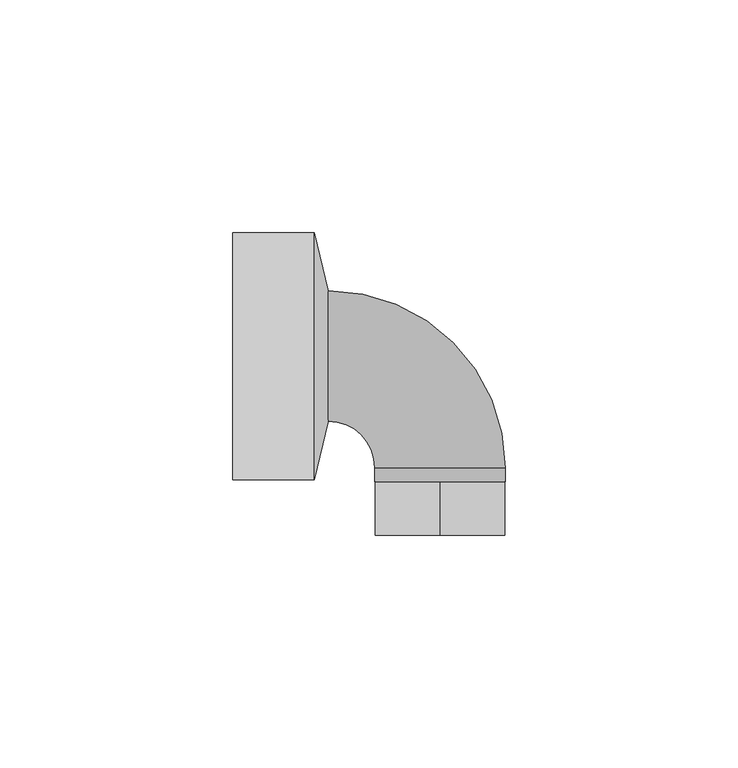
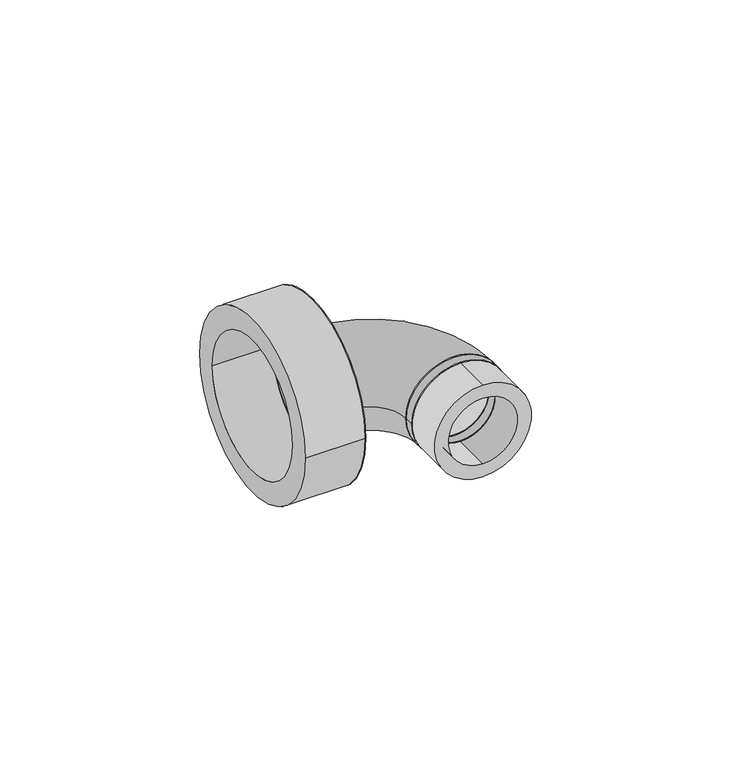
"""IFC4 building model written with IfcOpenShell, lengths in millimetres: pipe fitting geometry, 40_Угольник переходной 90 : Белый цвет."""

import ifcopenshell
import ifcopenshell.guid

model = None  # the IFC model being written
_history = None  # IfcOwnerHistory: only IFC2X3 demands one
_inside = {}  # id of a spatial element -> (the spatial element, [elements in it])
_under = {}  # id of a project, library or spatial element -> (it, [spatial elements below it])
_declared = {}  # id of a project -> (the project, [libraries it declares])
_typed = {}  # id of a type object -> (the type object, [elements of that type])
_made_of = {}  # id of a material, layer set ... -> (it, [elements and type objects made of it])


def new_model(schema):
    """Start an empty IFC model of exactly this schema.

    Asked for "IFC4X3", IfcOpenShell would pick the latest addendum, in which some entities
    have other attributes; the version numbers below select the first issue.
    IFC2X3 requires an IfcOwnerHistory on every rooted entity: one is made here for all.
    """
    global model, _history
    if schema == "IFC4X3":
        model = ifcopenshell.file(schema_version=(4, 3, 0, 0))
    else:
        model = ifcopenshell.file(schema=schema)
    _inside.clear()
    _under.clear()
    _declared.clear()
    _typed.clear()
    _made_of.clear()
    _history = None
    if model.schema == "IFC2X3":
        org = make("IfcOrganization", Name="unknown")
        user = make(
            "IfcPersonAndOrganization",
            ThePerson=make("IfcPerson", FamilyName="unknown"),
            TheOrganization=org,
        )
        app = make(
            "IfcApplication",
            ApplicationDeveloper=org,
            Version="unknown",
            ApplicationFullName="unknown",
            ApplicationIdentifier="unknown",
        )
        _history = make(
            "IfcOwnerHistory",
            OwningUser=user,
            OwningApplication=app,
            ChangeAction="ADDED",
            CreationDate=0,
        )
    return model


def make(cls, **values):
    """One entity of the class cls with the attributes given. An attribute that is None is left unset."""
    return model.create_entity(
        cls, **{name: value for name, value in values.items() if value is not None}
    )


def rooted(cls, **values):
    """An entity with a GlobalId (a new one), such as an element, a storey or a relation."""
    return make(cls, GlobalId=ifcopenshell.guid.new(), OwnerHistory=_history, **values)


def si_unit(unit_type, name, prefix=None):
    """IfcSIUnit, for example si_unit("LENGTHUNIT", "METRE", prefix="MILLI")."""
    return make("IfcSIUnit", UnitType=unit_type, Prefix=prefix, Name=name)


def assignment(units):
    """IfcUnitAssignment: the units of a project."""
    return None if units is None else make("IfcUnitAssignment", Units=units)


def point(xyz):
    """IfcCartesianPoint."""
    return None if xyz is None else make("IfcCartesianPoint", Coordinates=xyz)


def direction(xyz):
    """IfcDirection."""
    return None if xyz is None else make("IfcDirection", DirectionRatios=xyz)


def frame(location, z_axis=None, x_axis=None):
    """IfcAxis2Placement3D, a coordinate frame: its origin and axes. An axis left out is left unset."""
    return make(
        "IfcAxis2Placement3D",
        Location=point(location),
        Axis=direction(z_axis),
        RefDirection=direction(x_axis),
    )


def frame_2d(location, x_axis=None):
    """IfcAxis2Placement2D, a coordinate frame in the plane: its origin and x axis."""
    return make(
        "IfcAxis2Placement2D", Location=point(location), RefDirection=direction(x_axis)
    )


def origin():
    """The frame at (0, 0, 0) with its axes left unset."""
    return frame((0.0, 0.0, 0.0))


def place(relative_to, where):
    """IfcLocalPlacement: puts the frame where relative to a parent placement (None: the world)."""
    return make(
        "IfcLocalPlacement", PlacementRelTo=relative_to, RelativePlacement=where
    )


def context(
    kind, dimensions, precision=None, world=None, true_north=None, identifier=None
):
    """IfcGeometricRepresentationContext, for example the 3D "Model" context."""
    return make(
        "IfcGeometricRepresentationContext",
        ContextIdentifier=identifier,
        ContextType=kind,
        CoordinateSpaceDimension=dimensions,
        Precision=precision,
        WorldCoordinateSystem=world,
        TrueNorth=true_north,
    )


def project(units=None, contexts=None):
    """IfcProject with its units and contexts."""
    return rooted(
        "IfcProject",
        Name="project",
        RepresentationContexts=contexts,
        UnitsInContext=assignment(units),
    )


def spatial(cls, under=None, at=None, **own):
    """A site, building, storey or space (cls), placed at a placement, below another one or the project."""
    s = rooted(cls, ObjectPlacement=at, **own)
    if under is not None:
        _under.setdefault(under.id(), (under, []))[1].append(s)
    return s


def polyline(points):
    """IfcPolyline through the points."""
    return make("IfcPolyline", Points=[point(p) for p in points])


def circle_curve(where, radius):
    """IfcCircle in the frame where."""
    return make("IfcCircle", Position=where, Radius=radius)


def ellipse_curve(where, semi_axis1, semi_axis2):
    """IfcEllipse in the frame where."""
    return make(
        "IfcEllipse", Position=where, SemiAxis1=semi_axis1, SemiAxis2=semi_axis2
    )


def trimmed(basis, trim1, trim2, sense, master):
    """IfcTrimmedCurve: the piece of a basis curve between two trims."""
    return make(
        "IfcTrimmedCurve",
        BasisCurve=basis,
        Trim1=trim1,
        Trim2=trim2,
        SenseAgreement=sense,
        MasterRepresentation=master,
    )


def segment(curve, same_sense, transition):
    """IfcCompositeCurveSegment."""
    return make(
        "IfcCompositeCurveSegment",
        Transition=transition,
        SameSense=same_sense,
        ParentCurve=curve,
    )


def composite_curve(segments, self_intersect=None):
    """IfcCompositeCurve: segments joined end to end."""
    return make("IfcCompositeCurve", Segments=segments, SelfIntersect=self_intersect)


def outline(outer, holes=None, kind="AREA"):
    """IfcArbitraryClosedProfileDef: a profile drawn as a closed curve; with holes, ...WithVoids."""
    if holes is None:
        return make("IfcArbitraryClosedProfileDef", ProfileType=kind, OuterCurve=outer)
    return make(
        "IfcArbitraryProfileDefWithVoids",
        ProfileType=kind,
        OuterCurve=outer,
        InnerCurves=holes,
    )


def extrude(swept, where, along, depth):
    """IfcExtrudedAreaSolid: the profile swept, set in the frame where, extruded along a direction by depth."""
    return make(
        "IfcExtrudedAreaSolid",
        SweptArea=swept,
        Position=where,
        ExtrudedDirection=direction(along),
        Depth=depth,
    )


def shape(context_of_items, identifier, shape_type, items):
    """IfcShapeRepresentation: the items that make up one representation, for example the "Body"."""
    return make(
        "IfcShapeRepresentation",
        ContextOfItems=context_of_items,
        RepresentationIdentifier=identifier,
        RepresentationType=shape_type,
        Items=items,
    )


def source(mapping_origin, context_of_items, identifier, shape_type, items):
    """IfcRepresentationMap: a shape defined once, which mapped items show again and again."""
    return make(
        "IfcRepresentationMap",
        MappingOrigin=mapping_origin,
        MappedRepresentation=shape(context_of_items, identifier, shape_type, items),
    )


def transform(
    local_origin,
    x_axis=None,
    y_axis=None,
    z_axis=None,
    scale=None,
    scale2=None,
    scale3=None,
    uniform=True,
):
    """IfcCartesianTransformationOperator3D, or its non-uniform kind. x_axis, y_axis, z_axis: its Axis1, 2, 3."""
    if uniform:
        return make(
            "IfcCartesianTransformationOperator3D",
            Axis1=direction(x_axis),
            Axis2=direction(y_axis),
            LocalOrigin=point(local_origin),
            Scale=scale,
            Axis3=direction(z_axis),
        )
    return make(
        "IfcCartesianTransformationOperator3DnonUniform",
        Axis1=direction(x_axis),
        Axis2=direction(y_axis),
        LocalOrigin=point(local_origin),
        Scale=scale,
        Axis3=direction(z_axis),
        Scale2=scale2,
        Scale3=scale3,
    )


def mapped(mapping_source, mapping_target):
    """IfcMappedItem: shows the shape of a source again, moved by a transform."""
    return make(
        "IfcMappedItem", MappingSource=mapping_source, MappingTarget=mapping_target
    )


def made_of(thing, what):
    """Note that an element or type object is made of a material, layer set ...; save() writes the relation."""
    if what is not None:
        _made_of.setdefault(what.id(), (what, []))[1].append(thing)
    return thing


def element(
    cls,
    number,
    at=None,
    inside=None,
    cuts=None,
    type_object=None,
    material=None,
    context=None,
    identifier="Body",
    shape_type=None,
    held_by="IfcProductDefinitionShape",
    body=None,
    shapes=None,
    **own,
):
    """One element of the class cls, such as IfcWall. Its Tag is "e" and its number.

    at: its placement. inside: the storey or other place that contains it. cuts: it is an
    opening in that element (IfcRelVoidsElement). A single representation is given by context,
    identifier, shape_type and body (its items); several are given by shapes. held_by: the class
    of the entity that holds the representations. save() writes the other relations.
    """
    e = rooted(cls, Tag="e%d" % number, ObjectPlacement=at, **own)
    if body is not None:
        shapes = [shape(context, identifier, shape_type, body)]
    if shapes is not None:
        e.Representation = make(held_by, Representations=shapes)
    if inside is not None:
        _inside.setdefault(inside.id(), (inside, []))[1].append(e)
    if cuts is not None:
        rooted(
            "IfcRelVoidsElement", RelatingBuildingElement=cuts, RelatedOpeningElement=e
        )
    if type_object is not None:
        _typed.setdefault(type_object.id(), (type_object, []))[1].append(e)
    return made_of(e, material)


def aggregate(whole, parts):
    """IfcRelAggregates: a whole, such as a stair, and the parts it consists of."""
    return rooted("IfcRelAggregates", RelatingObject=whole, RelatedObjects=parts)


def save(model, path):
    """Write the relations noted so far, then the file.

    IfcRelAggregates (storeys below a building ...), IfcRelContainedInSpatialStructure (elements
    in a storey), IfcRelDefinesByType, IfcRelAssociatesMaterial and IfcRelDeclares: one each for
    every whole, place, type object, material and project.
    """
    for whole, parts in _under.values():
        aggregate(whole, parts)
    for where, things in _inside.values():
        rooted(
            "IfcRelContainedInSpatialStructure",
            RelatedElements=things,
            RelatingStructure=where,
        )
    for kind, things in _typed.values():
        rooted("IfcRelDefinesByType", RelatedObjects=things, RelatingType=kind)
    for what, things in _made_of.values():
        rooted("IfcRelAssociatesMaterial", RelatedObjects=things, RelatingMaterial=what)
    for by, libraries in _declared.values():
        rooted("IfcRelDeclares", RelatingContext=by, RelatedDefinitions=libraries)
    model.write(path)


def plane_surface(at):
    """IfcPlane: the flat surface through the origin of the frame at, square to its z axis."""
    return make("IfcPlane", Position=at)


def revolved_surface(curve, axis_point, axis_direction):
    """IfcSurfaceOfRevolution: the curve turned about the line through axis_point along axis_direction."""
    return make(
        "IfcSurfaceOfRevolution",
        SweptCurve=make("IfcArbitraryOpenProfileDef", ProfileType="CURVE", Curve=curve),
        AxisPosition=make("IfcAxis1Placement", Location=point(axis_point), Axis=direction(axis_direction)),
    )


def advanced_brep(points, edges, surfaces, faces):
    """IfcAdvancedBrep: a solid bounded by faces that lie on surfaces and meet in shared edges.

    An edge is (start, end): straight between two places in points (the first is 0);
    or (start, end, curve); or (start, end, curve, False) where it runs against its curve.
    A face is (place in surfaces, loops), or (place, loops, False) where it looks against
    its surface's normal. A loop lists edges by number (the first is 1), with a minus sign
    where the edge is run from its end to its start. The first loop is the outer one.
    """
    corners = [point(p) for p in points]
    vertices = [make("IfcVertexPoint", VertexGeometry=c) for c in corners]
    made = []
    for start, end, *more in edges:
        made.append(
            make(
                "IfcEdgeCurve",
                EdgeStart=vertices[start],
                EdgeEnd=vertices[end],
                EdgeGeometry=more[0] if more else make("IfcPolyline", Points=[corners[start], corners[end]]),
                SameSense=more[1] if len(more) > 1 else True,
            )
        )
    hull = []
    for where, loops, *sense in faces:
        bounds = []
        for j, loop in enumerate(loops):
            ring = [make("IfcOrientedEdge", EdgeElement=made[abs(k) - 1], Orientation=k > 0) for k in loop]
            bounds.append(
                make(
                    "IfcFaceOuterBound" if j == 0 else "IfcFaceBound",
                    Bound=make("IfcEdgeLoop", EdgeList=ring),
                    Orientation=True,
                )
            )
        hull.append(make("IfcAdvancedFace", Bounds=bounds, FaceSurface=surfaces[where], SameSense=sense[0] if sense else True))
    return make("IfcAdvancedBrep", Outer=make("IfcClosedShell", CfsFaces=hull))


def pipe_fitting_7bcdb8cd(model_context):
    return source(origin(), model_context, "Body", "SolidModel", [
        advanced_brep(
        [(-10.35, -24.0, 0.0), (17.65, -24.0, 0.0), (-6.35, -24.0, 0.0), (13.65, -24.0, 0.0), (-20.35, -14.0, 0.0), (-20.35, 14.0, 0.0), (-20.35, -10.0, 0.0), (-20.35, 10.0, 0.0)],
        [
            (0, 1, circle_curve(frame((3.65, -24.0, 0.0), z_axis=(0.0, -1.0, 0.0), x_axis=(1.0, 0.0, 0.0)), 14.0)),
            (1, 0, circle_curve(frame((3.65, -24.0, 0.0), z_axis=(0.0, -1.0, 0.0), x_axis=(1.0, 0.0, 0.0)), 14.0)),
            (2, 3, circle_curve(frame((3.65, -24.0, 0.0), z_axis=(0.0, 1.0, 0.0), x_axis=(1.0, 0.0, 0.0)), 10.0)),
            (3, 2, circle_curve(frame((3.65, -24.0, 0.0), z_axis=(0.0, 1.0, 0.0), x_axis=(1.0, 0.0, 0.0)), 10.0)),
            (4, 5, circle_curve(frame((-20.35, 0.0, 0.0), z_axis=(-1.0, 0.0, 0.0), x_axis=(0.0, 1.0, 0.0)), 14.0)),
            (5, 4, circle_curve(frame((-20.35, 0.0, 0.0), z_axis=(-1.0, 0.0, 0.0), x_axis=(0.0, 1.0, 0.0)), 14.0)),
            (6, 7, circle_curve(frame((-20.35, 0.0, 0.0), z_axis=(1.0, 0.0, 0.0), x_axis=(0.0, 1.0, 0.0)), 10.0)),
            (7, 6, circle_curve(frame((-20.35, 0.0, 0.0), z_axis=(1.0, 0.0, 0.0), x_axis=(0.0, 1.0, 0.0)), 10.0)),
            (4, 0, circle_curve(frame((-20.35, -24.0, 0.0), z_axis=(0.0, 0.0, -1.0), x_axis=(1.0, 0.0, 0.0)), 10.0)),
            (1, 5, circle_curve(frame((-20.35, -24.0, 0.0), z_axis=(0.0, 0.0, 1.0), x_axis=(1.0, 0.0, 0.0)), 38.0)),
            (6, 2, circle_curve(frame((-20.35, -24.0, 0.0), z_axis=(0.0, 0.0, -1.0), x_axis=(1.0, 0.0, 0.0)), 14.0)),
            (3, 7, circle_curve(frame((-20.35, -24.0, 0.0), z_axis=(0.0, 0.0, 1.0), x_axis=(1.0, 0.0, 0.0)), 34.0)),
        ],
        [
            plane_surface(frame((3.65, -24.0, 0.0), z_axis=(0.0, -1.0, 0.0), x_axis=(0.0, 0.0, 1.0))),
            plane_surface(frame((-20.35, 0.0, 0.0), z_axis=(-1.0, 0.0, 0.0), x_axis=(0.0, 0.0, 1.0))),
            revolved_surface(trimmed(ellipse_curve(frame((3.65, -24.0, 0.0), z_axis=(0.0, 1.0, 0.0), x_axis=(1.0, 0.0, 0.0)), 14.0, 14.0), [point((-10.35, -24.0, 0.0))], [point((17.65, -24.0, 0.0))], True, "CARTESIAN"), (-20.35, -24.0, 0.0), (0.0, 0.0, -1.0)),
            revolved_surface(trimmed(ellipse_curve(frame((3.65, -24.0, 0.0), z_axis=(0.0, 1.0, 0.0), x_axis=(1.0, 0.0, 0.0)), 14.0, 14.0), [point((17.65, -24.0, 0.0))], [point((-10.35, -24.0, 0.0))], True, "CARTESIAN"), (-20.35, -24.0, 0.0), (0.0, 0.0, -1.0)),
            revolved_surface(trimmed(ellipse_curve(frame((3.65, -24.0, 0.0), z_axis=(0.0, -1.0, 0.0), x_axis=(1.0, 0.0, 0.0)), 10.0, 10.0), [point((-6.35, -24.0, 0.0))], [point((13.65, -24.0, 0.0))], True, "CARTESIAN"), (-20.35, -24.0, 0.0), (0.0, 0.0, -1.0)),
            revolved_surface(trimmed(ellipse_curve(frame((3.65, -24.0, 0.0), z_axis=(0.0, -1.0, 0.0), x_axis=(1.0, 0.0, 0.0)), 10.0, 10.0), [point((13.65, -24.0, 0.0))], [point((-6.35, -24.0, 0.0))], True, "CARTESIAN"), (-20.35, -24.0, 0.0), (0.0, 0.0, -1.0)),
        ],
        [
            (0, [[1, 2], [3, 4]]),
            (1, [[5, 6], [7, 8]]),
            (2, [[-5, 9, -2, 10]]),
            (3, [[-6, -10, -1, -9]]),
            (4, [[-7, 11, -4, 12]]),
            (5, [[-8, -12, -3, -11]]),
        ],
    ),
        advanced_brep(
        [(-20.35, 13.95, 0.0), (-20.35, -14.05, 0.0), (-20.35, -10.05, 0.0), (-20.35, 9.95, 0.0), (-23.35, 26.45, 0.0), (-23.35, -26.55, 0.0), (-23.35, 19.95, 0.0), (-23.35, -20.05, 0.0)],
        [
            (0, 1, circle_curve(frame((-20.35, -0.05, 0.0), z_axis=(1.0, 0.0, 0.0), x_axis=(0.0, -1.0, 0.0)), 14.0)),
            (1, 0, circle_curve(frame((-20.35, -0.05, 0.0), z_axis=(1.0, 0.0, 0.0), x_axis=(0.0, 1.0, 0.0)), 14.0)),
            (2, 3, circle_curve(frame((-20.35, -0.05, 0.0), z_axis=(-1.0, 0.0, -1.2355450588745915e-12), x_axis=(0.0, -1.0, 0.0)), 10.0)),
            (3, 2, circle_curve(frame((-20.35, -0.05, 0.0), z_axis=(-1.0, 0.0, -1.2355450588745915e-12), x_axis=(0.0, 1.0, 0.0)), 10.0)),
            (4, 5, circle_curve(frame((-23.35, -0.05, 0.0), z_axis=(-1.0, 0.0, 0.0), x_axis=(0.0, 1.0, 0.0)), 26.5)),
            (5, 4, circle_curve(frame((-23.35, -0.05, 0.0), z_axis=(-1.0, 0.0, 0.0), x_axis=(0.0, -1.0, 0.0)), 26.5)),
            (6, 7, circle_curve(frame((-23.35, -0.05, 0.0), z_axis=(1.0, 0.0, 1.2355450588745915e-12), x_axis=(0.0, -1.0, 0.0)), 20.0)),
            (7, 6, circle_curve(frame((-23.35, -0.05, 0.0), z_axis=(1.0, 0.0, 1.2355450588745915e-12), x_axis=(0.0, 1.0, 0.0)), 20.0)),
            (1, 5),
            (4, 0),
            (7, 2),
            (3, 6),
        ],
        [
            plane_surface(frame((-20.35, -0.05, 0.0), z_axis=(1.0, 0.0, 0.0), x_axis=(0.0, 0.0, -1.0))),
            plane_surface(frame((-23.35, -0.05, 0.0), z_axis=(-1.0, 0.0, 0.0), x_axis=(0.0, 0.0, -1.0))),
            revolved_surface(polyline([(-20.35, -14.050000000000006, 0.0), (-23.35, -26.55, 0.0)]), (-16.99, -0.05, 0.0), (-1.0, 0.0, 0.0)),
            revolved_surface(polyline([(-20.35, 13.950000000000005, 0.0), (-23.35, 26.45, 0.0)]), (-16.99, -0.05, 0.0), (-1.0, 0.0, 0.0)),
            revolved_surface(polyline([(-23.35, 19.95, 0.0), (-20.35, 9.95, 0.0)]), (-17.35, -0.05, 0.0), (-1.0, 0.0, -1.2355450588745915e-12)),
            revolved_surface(polyline([(-23.35, -20.05, 0.0), (-20.35, -10.05, 0.0)]), (-17.35, -0.05, 0.0), (-1.0, 0.0, -1.2355450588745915e-12)),
        ],
        [
            (0, [[1, 2], [3, 4]]),
            (1, [[5, 6], [7, 8]]),
            (2, [[9, -5, 10, -2]]),
            (3, [[-10, -6, -9, -1]]),
            (4, [[-8, 11, -4, 12]]),
            (5, [[-3, -11, -7, -12]]),
        ],
    ),
        extrude(outline(composite_curve([segment(trimmed(circle_curve(frame_2d((0.0, 3.65)), 14.0), [point((0.0, -10.35))], [point((0.0, 17.65))], False, "CARTESIAN"), True, "CONTINUOUS"), segment(trimmed(circle_curve(frame_2d((0.0, 3.65)), 14.0), [point((0.0, 17.65))], [point((0.0, -10.35))], False, "CARTESIAN"), True, "CONTINUOUS")], self_intersect=False), holes=[composite_curve([segment(trimmed(circle_curve(frame_2d((0.0, 3.65)), 10.0), [point((0.0, -6.35))], [point((0.0, 13.65))], True, "CARTESIAN"), True, "CONTINUOUS"), segment(trimmed(circle_curve(frame_2d((0.0, 3.65)), 10.0), [point((0.0, 13.65))], [point((0.0, -6.35))], True, "CARTESIAN"), True, "CONTINUOUS")], self_intersect=False)]), frame((0.0, -27.0, 0.0), z_axis=(0.0, 1.0, 0.0), x_axis=(0.0, 0.0, 1.0)), (0.0, 0.0, 1.0), 3.0),
        extrude(outline(composite_curve([segment(trimmed(circle_curve(frame_2d((0.0, 3.65)), 14.0), [point((-14.0, 3.65))], [point((14.0, 3.65))], False, "CARTESIAN"), True, "CONTINUOUS"), segment(trimmed(circle_curve(frame_2d((0.0, 3.65)), 14.0), [point((14.0, 3.65))], [point((-14.0, 3.65))], False, "CARTESIAN"), True, "CONTINUOUS")], self_intersect=False), holes=[composite_curve([segment(trimmed(circle_curve(frame_2d((0.0, 3.65)), 10.0), [point((-10.0, 3.65))], [point((10.0, 3.65))], True, "CARTESIAN"), True, "CONTINUOUS"), segment(trimmed(circle_curve(frame_2d((0.0, 3.65)), 10.0), [point((10.0, 3.65))], [point((-10.0, 3.65))], True, "CARTESIAN"), True, "CONTINUOUS")], self_intersect=False)]), frame((0.0, -38.5, 0.0), z_axis=(0.0, 1.0, 0.0), x_axis=(0.0, 0.0, 1.0)), (0.0, 0.0, 1.0), 11.5),
        extrude(outline(composite_curve([segment(trimmed(circle_curve(frame_2d((-0.05, 0.0)), 26.5), [point((26.45, 0.0))], [point((-26.55, 0.0))], False, "CARTESIAN"), True, "CONTINUOUS"), segment(trimmed(circle_curve(frame_2d((-0.05, 0.0)), 26.5), [point((-26.55, 0.0))], [point((26.45, 0.0))], False, "CARTESIAN"), True, "CONTINUOUS")], self_intersect=False), holes=[composite_curve([segment(trimmed(circle_curve(frame_2d((-0.05, 0.0)), 20.0), [point((19.95, 0.0))], [point((-20.05, 0.0))], True, "CARTESIAN"), True, "CONTINUOUS"), segment(trimmed(circle_curve(frame_2d((-0.05, 0.0)), 20.0), [point((-20.05, 0.0))], [point((19.95, 0.0))], True, "CARTESIAN"), True, "CONTINUOUS")], self_intersect=False)]), frame((-40.85, 0.0, 0.0), z_axis=(1.0, 0.0, 0.0), x_axis=(0.0, 1.0, 0.0)), (0.0, 0.0, 1.0), 17.5),
    ])


if __name__ == "__main__":
    model = new_model("IFC4")
    model_context = context("Model", 3, world=origin())
    ifc_project = project(units=[si_unit("LENGTHUNIT", "METRE", prefix="MILLI")], contexts=[model_context])
    site = spatial("IfcSite", under=ifc_project)
    building = spatial("IfcBuilding", under=site)
    placement = place(None, origin())
    pipe_fitting_shape = pipe_fitting_7bcdb8cd(model_context)
    element("IfcPipeFitting", 1, ObjectType="40_Угольник переходной 90 : Белый цвет", at=placement, inside=building, context=model_context, shape_type="MappedRepresentation", body=[
        mapped(pipe_fitting_shape, transform((0.0, 0.0, 0.0), x_axis=(1.0, 0.0, 0.0), y_axis=(0.0, 1.0, 0.0), z_axis=(0.0, 0.0, 1.0))),
    ])
    save(model, "model.ifc")
